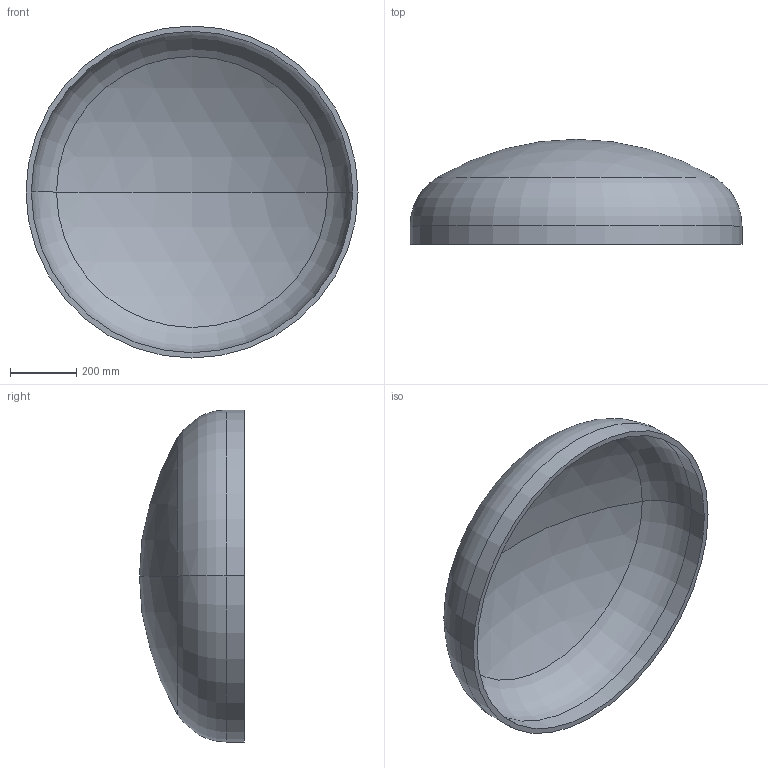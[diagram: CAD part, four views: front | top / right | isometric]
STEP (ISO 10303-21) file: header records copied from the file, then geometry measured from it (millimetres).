
FILE_DESCRIPTION (( 'STEP AP203' ), '1' );
FILE_NAME ('DIN 28013 Korbbogenform_-_Boden DIN 28013 - 1000 x 55 - I - s=16.step', '2016-07-01T08:43:16', ( '' ), ( '' ), 'SwSTEP 2.0', 'SolidWorks 2013', '' );
FILE_SCHEMA (( 'CONFIG_CONTROL_DESIGN' ));
Length unit declared in the file: millimetre
Products named in the file (1): DIN 28013 Korbbogenform_-_Boden DIN 28013 - 1000 x 55 - I - s=16
Bounding box: 1000 x 316.22 x 1000 mm (x, y, z)
Volume: 19782786.6 mm3; surface area: 2522844.9 mm2
Topology: 1 solids, 1 shells, 13 faces, 24 edges, 14 vertices
Faces by surface type: torus 4, cylinder 4, sphere 4, plane 1
Entity records: 407 total; most frequent: DIRECTION 72, CARTESIAN_POINT 52, ORIENTED_EDGE 48, AXIS2_PLACEMENT_3D 34, EDGE_CURVE 24, CIRCLE 20, EDGE_LOOP 14, VERTEX_POINT 14
